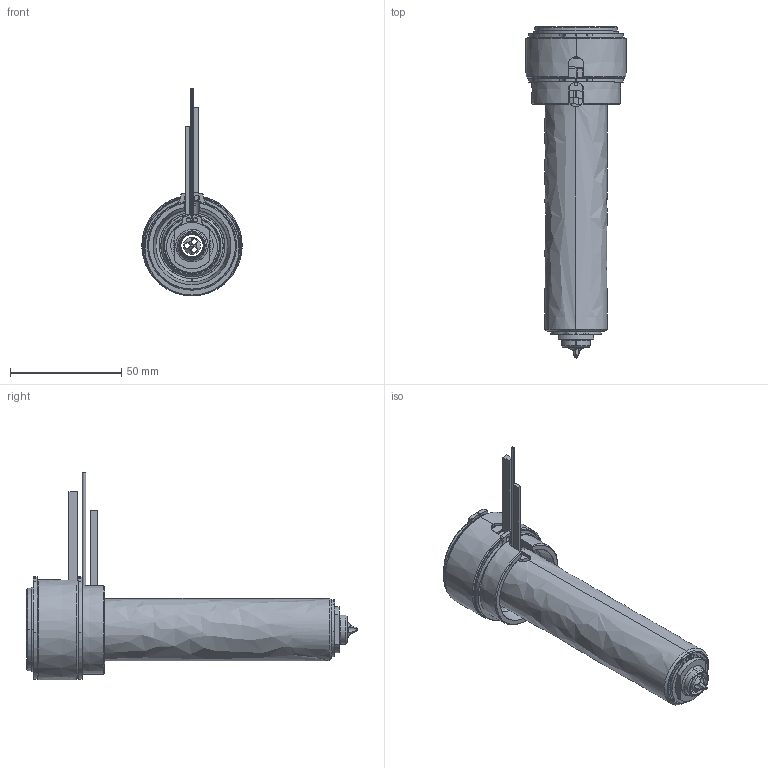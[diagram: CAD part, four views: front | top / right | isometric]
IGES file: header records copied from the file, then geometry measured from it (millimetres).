
Start section: SolidWorks IGES file using analytic representation for surfaces
Global section: file name: C:\Documents and Settings\ws-20\Desktop\TEM\UGEP4503-M-A-1 [Øf-1.17 ØC-10].IGS; native system: SolidWorks 2012; preprocessor: SolidWorks 2012; author: ws-20; date: 120424.090734; units: millimetre
Bounding box: 45 x 149.05 x 93.15 mm (x, y, z)
Surface area: 55132.3 mm2 (no closed solid volume)
Topology: 0 solids, 0 shells, 184 faces, 3501 edges, 3501 vertices
Faces by surface type: revolution 113, bspline 71
